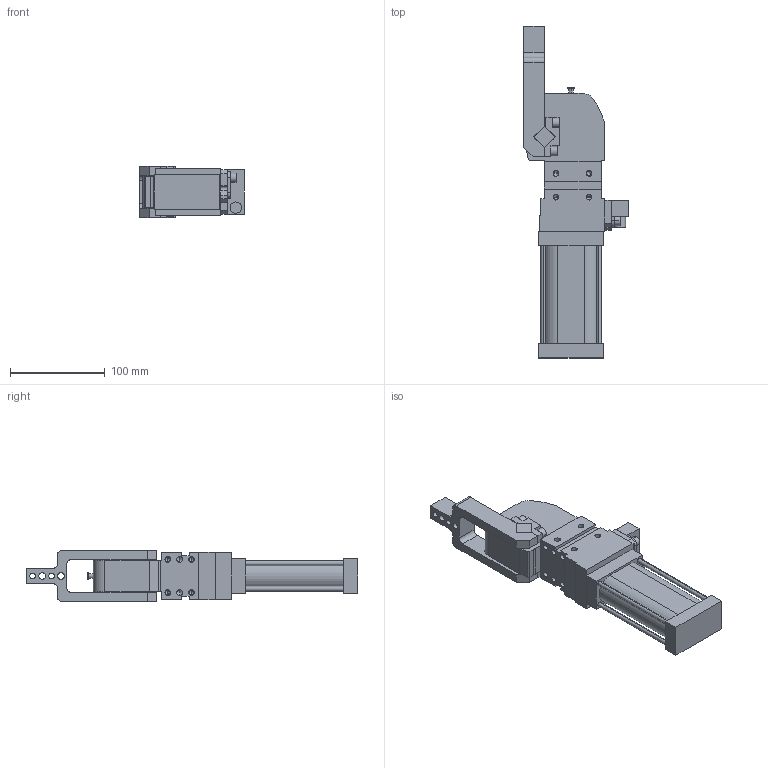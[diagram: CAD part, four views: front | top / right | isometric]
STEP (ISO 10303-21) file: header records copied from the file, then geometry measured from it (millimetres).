
FILE_DESCRIPTION (( 'STEP AP214' ), '1' );
FILE_NAME ('cpl40h2ci1g_108.STEP', '2021-05-25T10:31:58', ( '' ), ( '' ), 'SwSTEP 2.0', 'SolidWorks 2021', '' );
FILE_SCHEMA (( 'AUTOMOTIVE_DESIGN' ));
Length unit declared in the file: millimetre
Products named in the file (5): cpl40h2ci1g_108; meccanica_cpl40; leva_v2c_cpl40; piastra_blocchetto_cpl40; blocchetto_VEP_0_cpl40
Assembly tree (4 placements, depth 2):
  cpl40h2ci1g_108
    meccanica_cpl40
    leva_v2c_cpl40
    blocchetto_VEP_0_cpl40
    piastra_blocchetto_cpl40
Bounding box: 110.5 x 350 x 54 mm (x, y, z)
Volume: 763965.7 mm3; surface area: 115813 mm2
Topology: 5 solids, 5 shells, 404 faces, 1028 edges, 641 vertices
Faces by surface type: plane 214, cylinder 142, cone 48
Entity records: 13443 total; most frequent: DIRECTION 2118, CARTESIAN_POINT 2034, ORIENTED_EDGE 1964, EDGE_CURVE 982, AXIS2_PLACEMENT_3D 725, LINE 668, VECTOR 668, VERTEX_POINT 641
